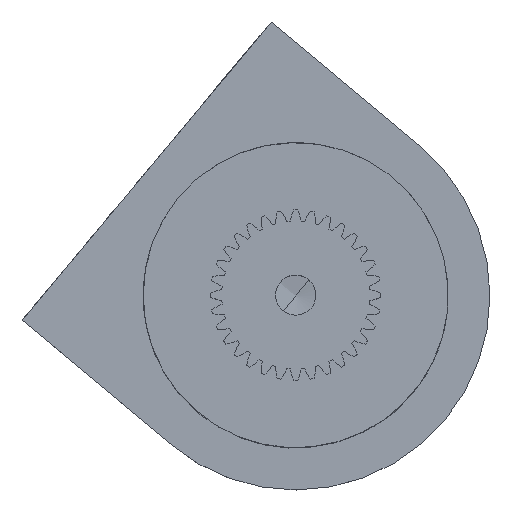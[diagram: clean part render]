
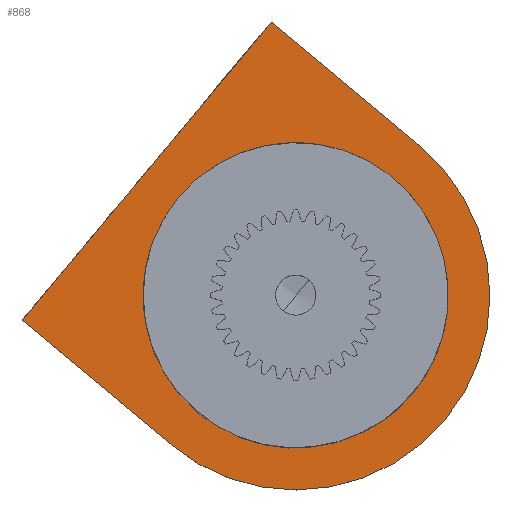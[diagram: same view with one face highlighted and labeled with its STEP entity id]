
A CAD part, top view. The second image highlights one B-rep face of the part: STEP entity #868.
In plain terms, the highlighted planar face has unit normal (0, 0, 1).
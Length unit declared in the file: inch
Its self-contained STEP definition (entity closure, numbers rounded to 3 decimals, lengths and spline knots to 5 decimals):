
#306=CARTESIAN_POINT('',(-0.40365,0.73666,-1.99));
#307=VERTEX_POINT('',#306);
#316=CARTESIAN_POINT('',(-0.49353,0.81174,-1.99));
#317=VERTEX_POINT('',#316);
#318=CARTESIAN_POINT('',(-0.49353,0.81174,-1.99));
#319=DIRECTION('',(0.767,-0.641,0.0));
#320=VECTOR('',#319,0.11712);
#321=LINE('',#318,#320);
#322=EDGE_CURVE('',#317,#307,#321,.T.);
#348=CARTESIAN_POINT('',(0.20492,0.81462,-1.99));
#349=VERTEX_POINT('',#348);
#364=CARTESIAN_POINT('',(0.04409,0.94898,-1.99));
#365=VERTEX_POINT('',#364);
#372=CARTESIAN_POINT('',(0.04409,0.94898,-1.99));
#373=DIRECTION('',(0.767,-0.641,0.0));
#374=VECTOR('',#373,0.20957);
#375=LINE('',#372,#374);
#376=EDGE_CURVE('',#365,#349,#375,.T.);
#386=CARTESIAN_POINT('',(0.76516,0.34661,-1.99));
#387=VERTEX_POINT('',#386);
#396=CARTESIAN_POINT('',(0.92599,0.21225,-1.99));
#397=VERTEX_POINT('',#396);
#398=CARTESIAN_POINT('',(0.76516,0.34661,-1.99));
#399=DIRECTION('',(0.767,-0.641,0.0));
#400=VECTOR('',#399,0.20957);
#401=LINE('',#398,#400);
#402=EDGE_CURVE('',#387,#397,#401,.T.);
#428=CARTESIAN_POINT('',(0.79673,-0.26613,-1.99));
#429=VERTEX_POINT('',#428);
#452=CARTESIAN_POINT('',(0.88661,-0.34121,-1.99));
#453=VERTEX_POINT('',#452);
#460=CARTESIAN_POINT('',(0.79673,-0.26613,-1.99));
#461=DIRECTION('',(0.767,-0.641,0.0));
#462=VECTOR('',#461,0.11712);
#463=LINE('',#460,#462);
#464=EDGE_CURVE('',#429,#453,#463,.T.);
#484=CARTESIAN_POINT('',(0.40365,-0.73666,-1.99));
#485=VERTEX_POINT('',#484);
#492=CARTESIAN_POINT('',(0.49353,-0.81174,-1.99));
#493=VERTEX_POINT('',#492);
#494=CARTESIAN_POINT('',(0.40365,-0.73666,-1.99));
#495=DIRECTION('',(0.767,-0.641,0.));
#496=VECTOR('',#495,0.11712);
#497=LINE('',#494,#496);
#498=EDGE_CURVE('',#485,#493,#497,.T.);
#524=CARTESIAN_POINT('',(-0.20492,-0.81462,-1.99));
#525=VERTEX_POINT('',#524);
#540=CARTESIAN_POINT('',(-0.04409,-0.94898,-1.99));
#541=VERTEX_POINT('',#540);
#548=CARTESIAN_POINT('',(-0.20492,-0.81462,-1.99));
#549=DIRECTION('',(0.767,-0.641,0.0));
#550=VECTOR('',#549,0.20957);
#551=LINE('',#548,#550);
#552=EDGE_CURVE('',#525,#541,#551,.T.);
#562=CARTESIAN_POINT('',(-0.76516,-0.34661,-1.99));
#563=VERTEX_POINT('',#562);
#572=CARTESIAN_POINT('',(-0.92599,-0.21225,-1.99));
#573=VERTEX_POINT('',#572);
#574=CARTESIAN_POINT('',(-0.92599,-0.21225,-1.99));
#575=DIRECTION('',(0.767,-0.641,0.0));
#576=VECTOR('',#575,0.20957);
#577=LINE('',#574,#576);
#578=EDGE_CURVE('',#573,#563,#577,.T.);
#604=CARTESIAN_POINT('',(-0.79673,0.26613,-1.99));
#605=VERTEX_POINT('',#604);
#620=CARTESIAN_POINT('',(-0.88661,0.34121,-1.99));
#621=VERTEX_POINT('',#620);
#628=CARTESIAN_POINT('',(-0.88661,0.34121,-1.99));
#629=DIRECTION('',(0.767,-0.641,0.));
#630=VECTOR('',#629,0.11712);
#631=LINE('',#628,#630);
#632=EDGE_CURVE('',#621,#605,#631,.T.);
#728=CARTESIAN_POINT('',(0.,0.,-1.99));
#729=DIRECTION('',(0.0,0.0,1.0));
#730=DIRECTION('',(1.0,0.0,0.0));
#731=AXIS2_PLACEMENT_3D('',#728,#729,#730);
#732=CIRCLE('',#731,0.84);
#733=EDGE_CURVE('',#349,#307,#732,.T.);
#738=CARTESIAN_POINT('',(0.,0.,-1.99));
#739=DIRECTION('',(0.0,0.0,1.0));
#740=DIRECTION('',(1.0,0.0,0.0));
#741=AXIS2_PLACEMENT_3D('',#738,#739,#740);
#742=CIRCLE('',#741,0.84);
#743=EDGE_CURVE('',#605,#563,#742,.T.);
#774=CARTESIAN_POINT('',(0.,0.,-1.99));
#775=DIRECTION('',(0.0,0.0,1.0));
#776=DIRECTION('',(1.0,0.0,0.0));
#777=AXIS2_PLACEMENT_3D('',#774,#775,#776);
#778=PLANE('',#777);
#779=CARTESIAN_POINT('',(-1.70436,-0.15286,-1.99));
#780=VERTEX_POINT('',#779);
#781=CARTESIAN_POINT('',(-0.15286,1.70436,-1.99));
#782=VERTEX_POINT('',#781);
#783=CARTESIAN_POINT('',(-1.70436,-0.15286,-1.99));
#784=DIRECTION('',(0.641,0.767,0.0));
#785=VECTOR('',#784,2.42);
#786=LINE('',#783,#785);
#787=EDGE_CURVE('',#780,#782,#786,.T.);
#788=ORIENTED_EDGE('',*,*,#787,.F.);
#789=CARTESIAN_POINT('',(-0.77575,-0.92861,-1.99));
#790=VERTEX_POINT('',#789);
#791=CARTESIAN_POINT('',(-0.77575,-0.92861,-1.99));
#792=DIRECTION('',(-0.767,0.641,0.0));
#793=VECTOR('',#792,1.21);
#794=LINE('',#791,#793);
#795=EDGE_CURVE('',#790,#780,#794,.T.);
#796=ORIENTED_EDGE('',*,*,#795,.F.);
#797=CARTESIAN_POINT('',(0.77575,0.92861,-1.99));
#798=VERTEX_POINT('',#797);
#799=CARTESIAN_POINT('',(0.,0.,-1.99));
#800=DIRECTION('',(0.0,0.0,1.0));
#801=DIRECTION('',(1.0,0.0,0.0));
#802=AXIS2_PLACEMENT_3D('',#799,#800,#801);
#803=CIRCLE('',#802,1.21);
#804=EDGE_CURVE('',#790,#798,#803,.T.);
#805=ORIENTED_EDGE('',*,*,#804,.T.);
#806=CARTESIAN_POINT('',(-0.15286,1.70436,-1.99));
#807=DIRECTION('',(0.767,-0.641,0.0));
#808=VECTOR('',#807,1.21);
#809=LINE('',#806,#808);
#810=EDGE_CURVE('',#782,#798,#809,.T.);
#811=ORIENTED_EDGE('',*,*,#810,.F.);
#812=EDGE_LOOP('',(#788,#796,#805,#811));
#813=FACE_OUTER_BOUND('',#812,.T.);
#814=CARTESIAN_POINT('',(0.0,0.0,-1.99));
#815=DIRECTION('',(0.0,0.0,1.0));
#816=DIRECTION('',(1.0,0.0,0.0));
#817=AXIS2_PLACEMENT_3D('',#814,#815,#816);
#818=CIRCLE('',#817,0.95);
#819=EDGE_CURVE('',#397,#365,#818,.T.);
#820=ORIENTED_EDGE('',*,*,#819,.F.);
#821=ORIENTED_EDGE('',*,*,#402,.F.);
#822=CARTESIAN_POINT('',(0.,0.,-1.99));
#823=DIRECTION('',(0.,0.,1.0));
#824=DIRECTION('',(0.911,0.413,0.));
#825=AXIS2_PLACEMENT_3D('',#822,#823,#824);
#826=CIRCLE('',#825,0.84);
#827=EDGE_CURVE('',#429,#387,#826,.T.);
#828=ORIENTED_EDGE('',*,*,#827,.F.);
#829=ORIENTED_EDGE('',*,*,#464,.T.);
#830=CARTESIAN_POINT('',(0.0,0.0,-1.99));
#831=DIRECTION('',(0.0,0.0,1.0));
#832=DIRECTION('',(1.0,0.0,0.0));
#833=AXIS2_PLACEMENT_3D('',#830,#831,#832);
#834=CIRCLE('',#833,0.95);
#835=EDGE_CURVE('',#493,#453,#834,.T.);
#836=ORIENTED_EDGE('',*,*,#835,.F.);
#837=ORIENTED_EDGE('',*,*,#498,.F.);
#838=CARTESIAN_POINT('',(0.,0.,-1.99));
#839=DIRECTION('',(0.,0.,1.0));
#840=DIRECTION('',(0.911,0.413,0.));
#841=AXIS2_PLACEMENT_3D('',#838,#839,#840);
#842=CIRCLE('',#841,0.84);
#843=EDGE_CURVE('',#525,#485,#842,.T.);
#844=ORIENTED_EDGE('',*,*,#843,.F.);
#845=ORIENTED_EDGE('',*,*,#552,.T.);
#846=CARTESIAN_POINT('',(0.0,0.0,-1.99));
#847=DIRECTION('',(0.0,0.0,1.0));
#848=DIRECTION('',(1.0,0.0,0.0));
#849=AXIS2_PLACEMENT_3D('',#846,#847,#848);
#850=CIRCLE('',#849,0.95);
#851=EDGE_CURVE('',#573,#541,#850,.T.);
#852=ORIENTED_EDGE('',*,*,#851,.F.);
#853=ORIENTED_EDGE('',*,*,#578,.T.);
#854=ORIENTED_EDGE('',*,*,#743,.F.);
#855=ORIENTED_EDGE('',*,*,#632,.F.);
#856=CARTESIAN_POINT('',(0.0,0.0,-1.99));
#857=DIRECTION('',(0.0,0.0,1.0));
#858=DIRECTION('',(1.0,0.0,0.0));
#859=AXIS2_PLACEMENT_3D('',#856,#857,#858);
#860=CIRCLE('',#859,0.95);
#861=EDGE_CURVE('',#317,#621,#860,.T.);
#862=ORIENTED_EDGE('',*,*,#861,.F.);
#863=ORIENTED_EDGE('',*,*,#322,.T.);
#864=ORIENTED_EDGE('',*,*,#733,.F.);
#865=ORIENTED_EDGE('',*,*,#376,.F.);
#866=EDGE_LOOP('',(#820,#821,#828,#829,#836,#837,#844,#845,#852,#853,#854,#855,#862,#863,#864,#865));
#867=FACE_BOUND('',#866,.T.);
#868=ADVANCED_FACE('',(#813,#867),#778,.T.);
